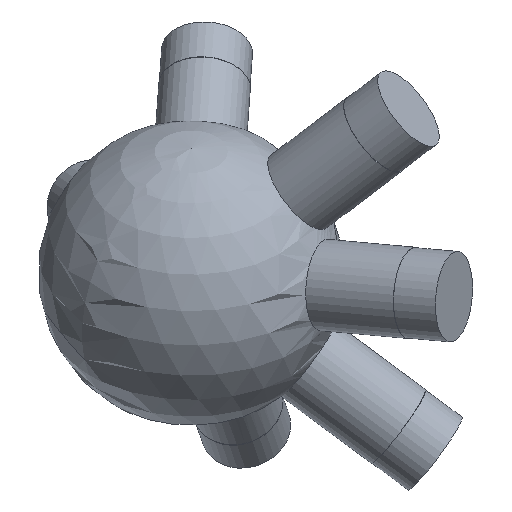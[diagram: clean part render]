
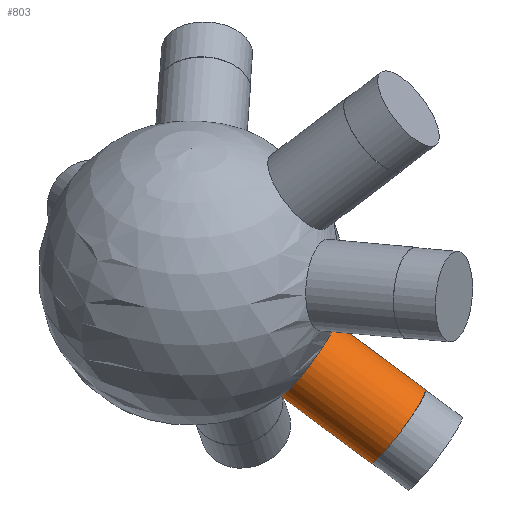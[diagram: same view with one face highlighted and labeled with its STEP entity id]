
A CAD part, isometric view. The second image highlights one B-rep face of the part: STEP entity #803.
In plain terms, the highlighted cylindrical face has radius 6 mm (diameter 12 mm), a full revolution.
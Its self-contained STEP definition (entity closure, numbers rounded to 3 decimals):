
#33 = SPHERICAL_SURFACE('',#34,20.);
#34 = AXIS2_PLACEMENT_3D('',#35,#36,#37);
#35 = CARTESIAN_POINT('',(0.,0.,0.));
#36 = DIRECTION('',(0.,0.,1.));
#37 = DIRECTION('',(1.,0.,-0.));
#336 = EDGE_CURVE('',#337,#337,#339,.T.);
#337 = VERTEX_POINT('',#338);
#338 = CARTESIAN_POINT('',(7.429,-10.548,
    -15.282));
#339 = SURFACE_CURVE('',#340,(#345,#414),.PCURVE_S1.);
#340 = CIRCLE('',#341,6.);
#341 = AXIS2_PLACEMENT_3D('',#342,#343,#344);
#342 = CARTESIAN_POINT('',(7.429,-14.12,
    -10.461));
#343 = DIRECTION('',(0.389,-0.74,-0.548));
#344 = DIRECTION('',(0.,0.595,-0.803)
  );
#345 = PCURVE('',#33,#346);
#346 = DEFINITIONAL_REPRESENTATION('',(#347),#413);
#347 = B_SPLINE_CURVE_WITH_KNOTS('',8,(#348,#349,#350,#351,#352,#353,
    #354,#355,#356,#357,#358,#359,#360,#361,#362,#363,#364,#365,#366,
    #367,#368,#369,#370,#371,#372,#373,#374,#375,#376,#377,#378,#379,
    #380,#381,#382,#383,#384,#385,#386,#387,#388,#389,#390,#391,#392,
    #393,#394,#395,#396,#397,#398,#399,#400,#401,#402,#403,#404,#405,
    #406,#407,#408,#409,#410,#411,#412),.UNSPECIFIED.,.F.,.F.,(9,7,7,7,7
    ,7,7,7,7,9),(0.,0.785,1.473,2.675,
    3.577,4.254,4.761,5.522,
    5.903,6.283),.UNSPECIFIED.);
#348 = CARTESIAN_POINT('',(5.326,-0.87));
#349 = CARTESIAN_POINT('',(5.369,-0.859));
#350 = CARTESIAN_POINT('',(5.408,-0.845));
#351 = CARTESIAN_POINT('',(5.444,-0.826));
#352 = CARTESIAN_POINT('',(5.474,-0.805));
#353 = CARTESIAN_POINT('',(5.5,-0.781));
#354 = CARTESIAN_POINT('',(5.52,-0.756));
#355 = CARTESIAN_POINT('',(5.536,-0.728));
#356 = CARTESIAN_POINT('',(5.557,-0.676));
#357 = CARTESIAN_POINT('',(5.563,-0.65));
#358 = CARTESIAN_POINT('',(5.566,-0.624));
#359 = CARTESIAN_POINT('',(5.566,-0.598));
#360 = CARTESIAN_POINT('',(5.563,-0.572));
#361 = CARTESIAN_POINT('',(5.558,-0.547));
#362 = CARTESIAN_POINT('',(5.549,-0.522));
#363 = CARTESIAN_POINT('',(5.521,-0.456));
#364 = CARTESIAN_POINT('',(5.496,-0.416));
#365 = CARTESIAN_POINT('',(5.465,-0.38));
#366 = CARTESIAN_POINT('',(5.429,-0.348));
#367 = CARTESIAN_POINT('',(5.389,-0.322));
#368 = CARTESIAN_POINT('',(5.346,-0.301));
#369 = CARTESIAN_POINT('',(5.301,-0.287));
#370 = CARTESIAN_POINT('',(5.22,-0.275));
#371 = CARTESIAN_POINT('',(5.184,-0.273));
#372 = CARTESIAN_POINT('',(5.149,-0.275));
#373 = CARTESIAN_POINT('',(5.114,-0.281));
#374 = CARTESIAN_POINT('',(5.08,-0.291));
#375 = CARTESIAN_POINT('',(5.047,-0.304));
#376 = CARTESIAN_POINT('',(5.015,-0.321));
#377 = CARTESIAN_POINT('',(4.964,-0.355));
#378 = CARTESIAN_POINT('',(4.944,-0.372));
#379 = CARTESIAN_POINT('',(4.924,-0.39));
#380 = CARTESIAN_POINT('',(4.906,-0.409));
#381 = CARTESIAN_POINT('',(4.89,-0.43));
#382 = CARTESIAN_POINT('',(4.876,-0.452));
#383 = CARTESIAN_POINT('',(4.864,-0.475));
#384 = CARTESIAN_POINT('',(4.846,-0.517));
#385 = CARTESIAN_POINT('',(4.84,-0.535));
#386 = CARTESIAN_POINT('',(4.835,-0.554));
#387 = CARTESIAN_POINT('',(4.831,-0.573));
#388 = CARTESIAN_POINT('',(4.829,-0.592));
#389 = CARTESIAN_POINT('',(4.829,-0.611));
#390 = CARTESIAN_POINT('',(4.83,-0.63));
#391 = CARTESIAN_POINT('',(4.837,-0.677));
#392 = CARTESIAN_POINT('',(4.845,-0.705));
#393 = CARTESIAN_POINT('',(4.857,-0.732));
#394 = CARTESIAN_POINT('',(4.874,-0.758));
#395 = CARTESIAN_POINT('',(4.895,-0.783));
#396 = CARTESIAN_POINT('',(4.921,-0.805));
#397 = CARTESIAN_POINT('',(4.952,-0.825));
#398 = CARTESIAN_POINT('',(5.005,-0.85));
#399 = CARTESIAN_POINT('',(5.023,-0.857));
#400 = CARTESIAN_POINT('',(5.043,-0.864));
#401 = CARTESIAN_POINT('',(5.063,-0.87));
#402 = CARTESIAN_POINT('',(5.084,-0.874));
#403 = CARTESIAN_POINT('',(5.105,-0.878));
#404 = CARTESIAN_POINT('',(5.127,-0.881));
#405 = CARTESIAN_POINT('',(5.172,-0.885));
#406 = CARTESIAN_POINT('',(5.195,-0.886));
#407 = CARTESIAN_POINT('',(5.217,-0.886));
#408 = CARTESIAN_POINT('',(5.24,-0.884));
#409 = CARTESIAN_POINT('',(5.262,-0.882));
#410 = CARTESIAN_POINT('',(5.284,-0.879));
#411 = CARTESIAN_POINT('',(5.305,-0.875));
#412 = CARTESIAN_POINT('',(5.326,-0.87));
#413 = ( GEOMETRIC_REPRESENTATION_CONTEXT(2) 
PARAMETRIC_REPRESENTATION_CONTEXT() REPRESENTATION_CONTEXT('2D SPACE',''
  ) );
#414 = PCURVE('',#415,#420);
#415 = CYLINDRICAL_SURFACE('',#416,6.);
#416 = AXIS2_PLACEMENT_3D('',#417,#418,#419);
#417 = CARTESIAN_POINT('',(0.,0.,0.));
#418 = DIRECTION('',(0.389,-0.74,-0.548));
#419 = DIRECTION('',(0.,0.595,-0.803)
  );
#420 = DEFINITIONAL_REPRESENTATION('',(#421),#425);
#421 = LINE('',#422,#423);
#422 = CARTESIAN_POINT('',(0.,19.079));
#423 = VECTOR('',#424,1.);
#424 = DIRECTION('',(1.,0.));
#425 = ( GEOMETRIC_REPRESENTATION_CONTEXT(2) 
PARAMETRIC_REPRESENTATION_CONTEXT() REPRESENTATION_CONTEXT('2D SPACE',''
  ) );
#803 = ADVANCED_FACE('',(#804),#415,.T.);
#804 = FACE_BOUND('',#805,.T.);
#805 = EDGE_LOOP('',(#806,#829,#856,#857));
#806 = ORIENTED_EDGE('',*,*,#807,.T.);
#807 = EDGE_CURVE('',#337,#808,#810,.T.);
#808 = VERTEX_POINT('',#809);
#809 = CARTESIAN_POINT('',(13.192,-21.503,
    -23.399));
#810 = SEAM_CURVE('',#811,(#815,#822),.PCURVE_S1.);
#811 = LINE('',#812,#813);
#812 = CARTESIAN_POINT('',(0.,3.572,
    -4.821));
#813 = VECTOR('',#814,1.);
#814 = DIRECTION('',(0.389,-0.74,-0.548));
#815 = PCURVE('',#415,#816);
#816 = DEFINITIONAL_REPRESENTATION('',(#817),#821);
#817 = LINE('',#818,#819);
#818 = CARTESIAN_POINT('',(6.283,-0.));
#819 = VECTOR('',#820,1.);
#820 = DIRECTION('',(0.,1.));
#821 = ( GEOMETRIC_REPRESENTATION_CONTEXT(2) 
PARAMETRIC_REPRESENTATION_CONTEXT() REPRESENTATION_CONTEXT('2D SPACE',''
  ) );
#822 = PCURVE('',#415,#823);
#823 = DEFINITIONAL_REPRESENTATION('',(#824),#828);
#824 = LINE('',#825,#826);
#825 = CARTESIAN_POINT('',(0.,-0.));
#826 = VECTOR('',#827,1.);
#827 = DIRECTION('',(0.,1.));
#828 = ( GEOMETRIC_REPRESENTATION_CONTEXT(2) 
PARAMETRIC_REPRESENTATION_CONTEXT() REPRESENTATION_CONTEXT('2D SPACE',''
  ) );
#829 = ORIENTED_EDGE('',*,*,#830,.F.);
#830 = EDGE_CURVE('',#808,#808,#831,.T.);
#831 = SURFACE_CURVE('',#832,(#837,#844),.PCURVE_S1.);
#832 = CIRCLE('',#833,6.);
#833 = AXIS2_PLACEMENT_3D('',#834,#835,#836);
#834 = CARTESIAN_POINT('',(13.192,-25.074,
    -18.578));
#835 = DIRECTION('',(0.389,-0.74,-0.548));
#836 = DIRECTION('',(0.,0.595,-0.803)
  );
#837 = PCURVE('',#415,#838);
#838 = DEFINITIONAL_REPRESENTATION('',(#839),#843);
#839 = LINE('',#840,#841);
#840 = CARTESIAN_POINT('',(0.,33.88));
#841 = VECTOR('',#842,1.);
#842 = DIRECTION('',(1.,0.));
#843 = ( GEOMETRIC_REPRESENTATION_CONTEXT(2) 
PARAMETRIC_REPRESENTATION_CONTEXT() REPRESENTATION_CONTEXT('2D SPACE',''
  ) );
#844 = PCURVE('',#845,#850);
#845 = PLANE('',#846);
#846 = AXIS2_PLACEMENT_3D('',#847,#848,#849);
#847 = CARTESIAN_POINT('',(13.192,-25.074,
    -18.578));
#848 = DIRECTION('',(0.389,-0.74,-0.548));
#849 = DIRECTION('',(0.,0.595,-0.803)
  );
#850 = DEFINITIONAL_REPRESENTATION('',(#851),#855);
#851 = CIRCLE('',#852,6.);
#852 = AXIS2_PLACEMENT_2D('',#853,#854);
#853 = CARTESIAN_POINT('',(0.,0.));
#854 = DIRECTION('',(1.,0.));
#855 = ( GEOMETRIC_REPRESENTATION_CONTEXT(2) 
PARAMETRIC_REPRESENTATION_CONTEXT() REPRESENTATION_CONTEXT('2D SPACE',''
  ) );
#856 = ORIENTED_EDGE('',*,*,#807,.F.);
#857 = ORIENTED_EDGE('',*,*,#336,.T.);
